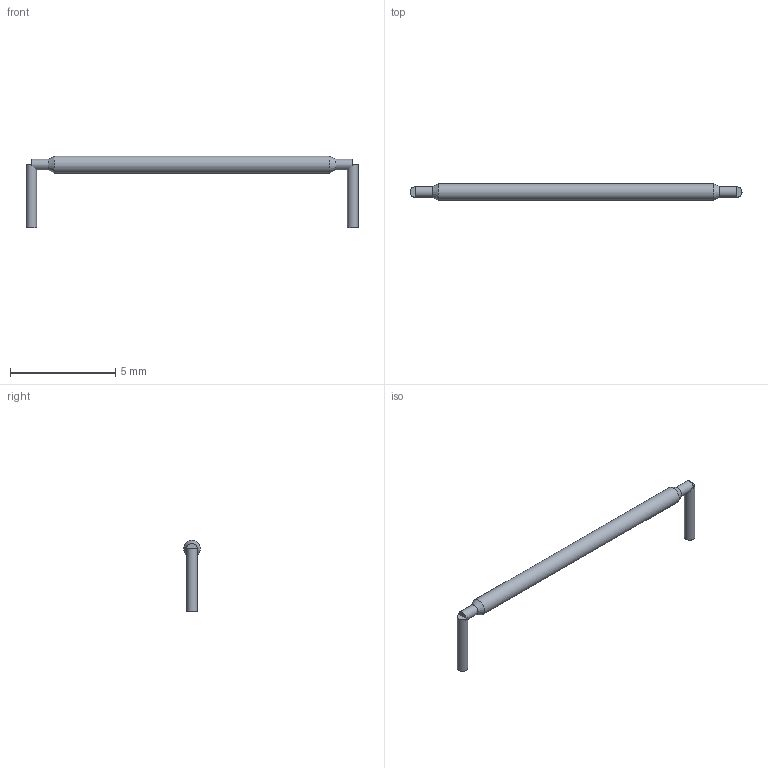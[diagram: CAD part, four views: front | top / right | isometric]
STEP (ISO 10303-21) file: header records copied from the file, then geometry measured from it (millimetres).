
FILE_DESCRIPTION(('FreeCAD Model'),'2;1');
FILE_NAME('Open CASCADE Shape Model','2026-04-07T19:07:43',('FreeCAD'),( 'FreeCAD'),'Open CASCADE STEP processor 7.8','FreeCAD','Unknown');
FILE_SCHEMA(('AUTOMOTIVE_DESIGN { 1 0 10303 214 1 1 1 1 }'));
Length unit declared in the file: millimetre
Products named in the file (1): Open CASCADE STEP translator 7.8 6
Bounding box: 15.74 x 0.8 x 3.4 mm (x, y, z)
Volume: 10.9 mm3; surface area: 69.1 mm2
Topology: 4 solids, 4 shells, 14 faces, 16 edges, 10 vertices
Faces by surface type: plane 8, cylinder 4, cone 2
Full cylindrical faces by diameter (mm): 0.5 x3, 0.8 x1
Entity records: 287 total; most frequent: DIRECTION 56, CARTESIAN_POINT 41, ORIENTED_EDGE 32, AXIS2_PLACEMENT_3D 25, EDGE_CURVE 16, ADVANCED_FACE 14, FACE_BOUND 14, EDGE_LOOP 14
